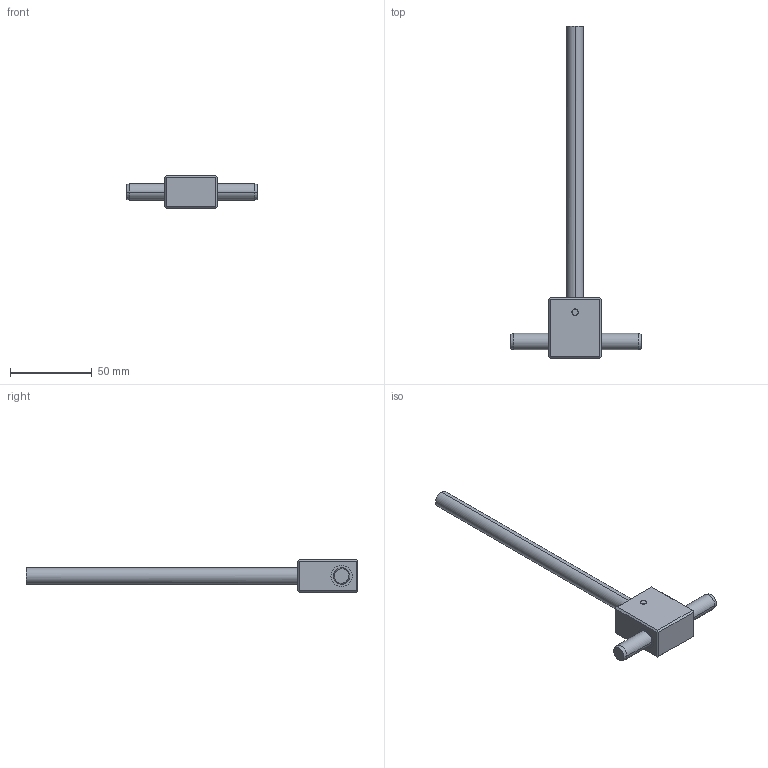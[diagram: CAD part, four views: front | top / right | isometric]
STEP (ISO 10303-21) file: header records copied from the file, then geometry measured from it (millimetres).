
FILE_DESCRIPTION (( 'STEP AP214' ), '1' );
FILE_NAME ('SD3220GR.STEP', '2013-06-18T09:48:09', ( '' ), ( '' ), 'SwSTEP 2.0', 'SolidWorks 2011', '' );
FILE_SCHEMA (( 'AUTOMOTIVE_DESIGN' ));
Length unit declared in the file: millimetre
Products named in the file (7): 9SD3220GR_SD.4528GR; Parallel Pin Unhardened_DIN_Parallel Pin ISO 2338 - 4 h6 x 20 - St; SD3220GR; 3casqSD32gr; Varilla SD32; 8SD3220GR_SD.3220GR; Parallel Pin Unhardened_DIN_Parallel Pin ISO 2338 - 10 h6 x 80 - St
Assembly tree (6 placements, depth 3):
  SD3220GR
    Parallel Pin Unhardened_DIN_Parallel Pin ISO 2338 - 10 h6 x 80 - St
    Varilla SD32
    Parallel Pin Unhardened_DIN_Parallel Pin ISO 2338 - 4 h6 x 20 - St
    9SD3220GR_SD.4528GR
      8SD3220GR_SD.3220GR
      3casqSD32gr
Bounding box: 80 x 203 x 20 mm (x, y, z)
Volume: 38061.5 mm3; surface area: 18968.4 mm2
Topology: 15 solids, 15 shells, 146 faces, 321 edges, 206 vertices
Faces by surface type: cylinder 91, plane 39, cone 14, torus 2
Entity records: 7382 total; most frequent: CARTESIAN_POINT 3179, ORIENTED_EDGE 642, DIRECTION 625, EDGE_CURVE 321, AXIS2_PLACEMENT_3D 236, VERTEX_POINT 206, EDGE_LOOP 177, LINE 153
